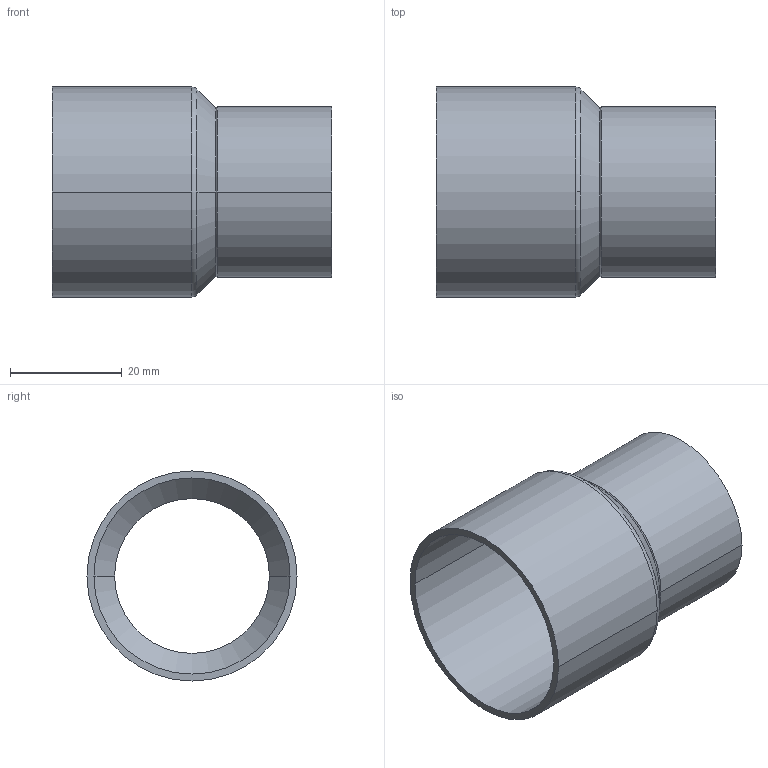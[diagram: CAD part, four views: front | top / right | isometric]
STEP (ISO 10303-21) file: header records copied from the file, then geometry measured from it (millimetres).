
FILE_DESCRIPTION((''),'2;1');
FILE_NAME('G:\Technics\CAD\Bauteile\Serie 15240\152403528.stp','2005-10-21T12:51:13',('boden'),(''),'Autodesk Inventor 8','Autodesk Inventor 8','');
FILE_SCHEMA(('AUTOMOTIVE_DESIGN { 1 0 10303 214 1 1 1 1 }'));
Length unit declared in the file: millimetre
Products named in the file (1): 152403528
Bounding box: 50 x 37.65 x 37.65 mm (x, y, z)
Volume: 6715 mm3; surface area: 11002.2 mm2
Topology: 1 solids, 1 shells, 24 faces, 52 edges, 30 vertices
Faces by surface type: cylinder 12, cone 8, torus 2, plane 2
Entity records: 683 total; most frequent: DIRECTION 134, CARTESIAN_POINT 107, ORIENTED_EDGE 104, AXIS2_PLACEMENT_3D 57, EDGE_CURVE 52, CIRCLE 32, VERTEX_POINT 30, EDGE_LOOP 26
